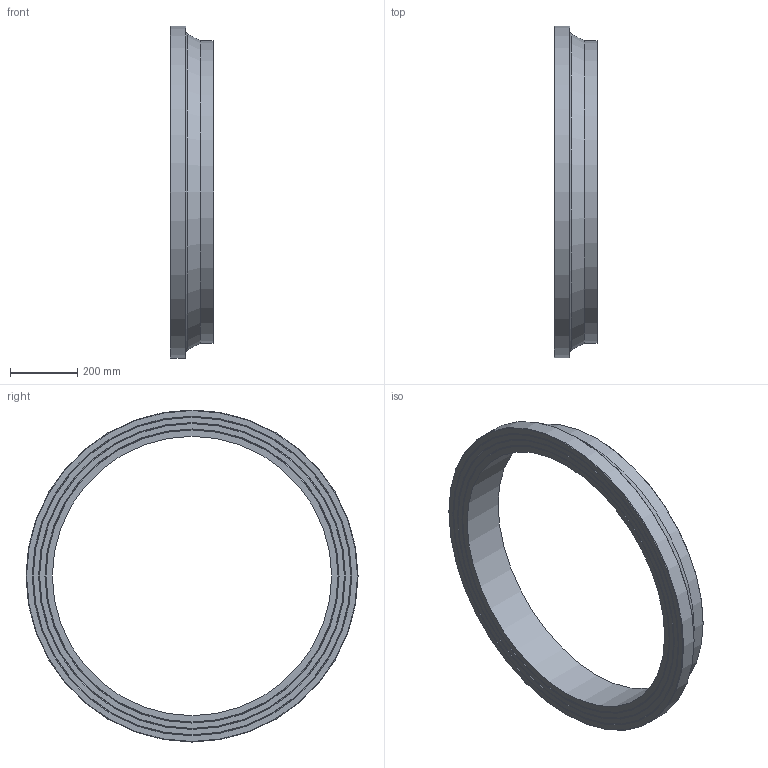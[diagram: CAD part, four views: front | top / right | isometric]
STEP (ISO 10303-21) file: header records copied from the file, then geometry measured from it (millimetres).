
FILE_DESCRIPTION(/* description */ ('Unknown'),/* implementation_level */ '2;1');
FILE_NAME(/* name */ 'CCP900A',/* time_stamp */ '2022-04-05T11:02:07+02:00',/* author */ ('Unknown'),/* organization */ ('Unknown'),/* preprocessor_version */ 'ST-DEVELOPER v18.1',/* originating_system */ 'Solid Edge',/* authorisation */ 'Unknown');
FILE_SCHEMA (('AUTOMOTIVE_DESIGN {1 0 10303 214 3 1 1}'));
Length unit declared in the file: millimetre
Products named in the file (1): CCP900A
Bounding box: 130 x 988 x 988 mm (x, y, z)
Volume: 19635121.1 mm3; surface area: 1116303.5 mm2
Topology: 1 solids, 1 shells, 20 faces, 35 edges, 21 vertices
Faces by surface type: cone 10, plane 6, cylinder 3, torus 1
Full cylindrical faces by diameter (mm): 831.2 x1, 900 x1, 988 x1
Entity records: 438 total; most frequent: DIRECTION 82, CARTESIAN_POINT 61, AXIS2_PLACEMENT_3D 41, ORIENTED_EDGE 40, EDGE_LOOP 40, FACE_BOUND 40, EDGE_CURVE 20, VERTEX_POINT 20
